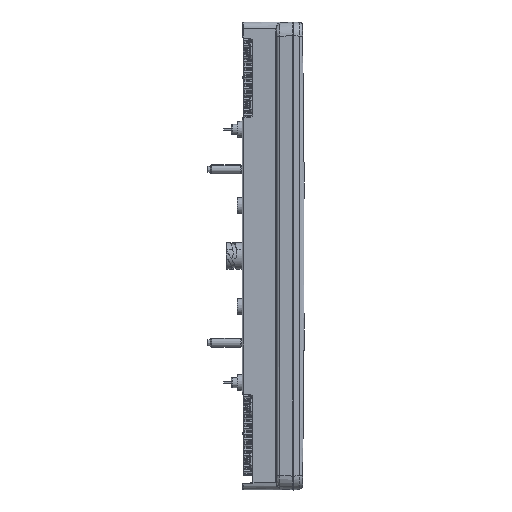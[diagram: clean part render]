
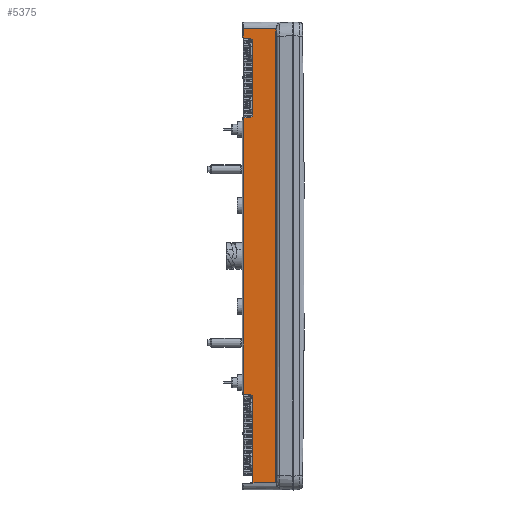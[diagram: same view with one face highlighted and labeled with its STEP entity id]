
A CAD part, top view. The second image highlights one B-rep face of the part: STEP entity #5375.
In plain terms, the highlighted planar face has unit normal (-0.035, 0, 0.999).
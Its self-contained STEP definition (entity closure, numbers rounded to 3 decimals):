
#5244=AXIS2_PLACEMENT_3D('Plane Axis2P3D',#5241,#5242,#5243) ;
#1428=CARTESIAN_POINT('Line Origine',(-41.552,0.,61.996)) ;
#1432=CARTESIAN_POINT('Vertex',(-41.552,-121.126,61.996)) ;
#1434=CARTESIAN_POINT('Vertex',(-41.552,121.126,61.996)) ;
#5241=CARTESIAN_POINT('Axis2P3D Location',(-12.8,0.,63.)) ;
#5246=CARTESIAN_POINT('Line Origine',(-27.9,-199.,62.473)) ;
#5250=CARTESIAN_POINT('Vertex',(-33.517,-199.,62.277)) ;
#5252=CARTESIAN_POINT('Vertex',(-13.572,-199.,62.973)) ;
#5255=CARTESIAN_POINT('Line Origine',(-13.572,0.,62.973)) ;
#5259=CARTESIAN_POINT('Vertex',(-13.572,-196.973,62.973)) ;
#5262=CARTESIAN_POINT('Line Origine',(-13.572,0.,62.973)) ;
#5266=CARTESIAN_POINT('Vertex',(-13.572,196.973,62.973)) ;
#5269=CARTESIAN_POINT('Line Origine',(-13.572,0.,62.973)) ;
#5273=CARTESIAN_POINT('Vertex',(-13.572,199.,62.973)) ;
#5276=CARTESIAN_POINT('Line Origine',(-27.9,199.,62.473)) ;
#5280=CARTESIAN_POINT('Vertex',(-42.017,199.,61.98)) ;
#5283=CARTESIAN_POINT('Line Origine',(-42.017,0.,61.98)) ;
#5287=CARTESIAN_POINT('Vertex',(-42.017,191.831,61.98)) ;
#5291=CARTESIAN_POINT('Control Point',(-42.017,191.831,61.98)) ;
#5292=CARTESIAN_POINT('Control Point',(-42.017,191.46,61.98)) ;
#5293=CARTESIAN_POINT('Control Point',(-41.831,191.085,61.986)) ;
#5294=CARTESIAN_POINT('Control Point',(-41.474,190.867,61.999)) ;
#5295=CARTESIAN_POINT('Control Point',(-41.105,190.835,62.012)) ;
#5296=CARTESIAN_POINT('Vertex',(-41.105,190.835,62.012)) ;
#5300=CARTESIAN_POINT('Control Point',(-41.105,190.835,62.012)) ;
#5301=CARTESIAN_POINT('Control Point',(-35.8,190.37,62.197)) ;
#5302=CARTESIAN_POINT('Vertex',(-35.8,190.37,62.197)) ;
#5306=CARTESIAN_POINT('Control Point',(-33.517,187.88,62.277)) ;
#5307=CARTESIAN_POINT('Control Point',(-33.517,188.622,62.277)) ;
#5308=CARTESIAN_POINT('Control Point',(-33.792,189.364,62.267)) ;
#5309=CARTESIAN_POINT('Control Point',(-34.346,189.968,62.248)) ;
#5310=CARTESIAN_POINT('Control Point',(-35.061,190.306,62.223)) ;
#5311=CARTESIAN_POINT('Control Point',(-35.8,190.37,62.197)) ;
#5312=CARTESIAN_POINT('Vertex',(-33.517,187.88,62.277)) ;
#5315=CARTESIAN_POINT('Line Origine',(-33.517,0.,62.277)) ;
#5319=CARTESIAN_POINT('Vertex',(-33.517,124.12,62.277)) ;
#5323=CARTESIAN_POINT('Control Point',(-35.8,121.63,62.197)) ;
#5324=CARTESIAN_POINT('Control Point',(-35.061,121.694,62.223)) ;
#5325=CARTESIAN_POINT('Control Point',(-34.346,122.032,62.248)) ;
#5326=CARTESIAN_POINT('Control Point',(-33.792,122.635,62.267)) ;
#5327=CARTESIAN_POINT('Control Point',(-33.517,123.378,62.277)) ;
#5328=CARTESIAN_POINT('Control Point',(-33.517,124.12,62.277)) ;
#5329=CARTESIAN_POINT('Vertex',(-35.8,121.63,62.197)) ;
#5333=CARTESIAN_POINT('Control Point',(-35.8,121.63,62.197)) ;
#5334=CARTESIAN_POINT('Control Point',(-41.552,121.126,61.996)) ;
#5337=CARTESIAN_POINT('Control Point',(-35.8,-121.63,62.197)) ;
#5338=CARTESIAN_POINT('Control Point',(-41.552,-121.126,61.996)) ;
#5339=CARTESIAN_POINT('Vertex',(-35.8,-121.63,62.197)) ;
#5343=CARTESIAN_POINT('Control Point',(-33.517,-124.12,62.277)) ;
#5344=CARTESIAN_POINT('Control Point',(-33.517,-123.378,62.277)) ;
#5345=CARTESIAN_POINT('Control Point',(-33.792,-122.635,62.267)) ;
#5346=CARTESIAN_POINT('Control Point',(-34.346,-122.032,62.248)) ;
#5347=CARTESIAN_POINT('Control Point',(-35.061,-121.694,62.223)) ;
#5348=CARTESIAN_POINT('Control Point',(-35.8,-121.63,62.197)) ;
#5349=CARTESIAN_POINT('Vertex',(-33.517,-124.12,62.277)) ;
#5352=CARTESIAN_POINT('Line Origine',(-33.517,0.,62.277)) ;
#1429=DIRECTION('Vector Direction',(0.,1.,0.)) ;
#5242=DIRECTION('Axis2P3D Direction',(0.035,0.,-0.999)) ;
#5243=DIRECTION('Axis2P3D XDirection',(0.,1.,0.)) ;
#5247=DIRECTION('Vector Direction',(0.999,0.,0.035)) ;
#5256=DIRECTION('Vector Direction',(0.,1.,0.)) ;
#5263=DIRECTION('Vector Direction',(0.,1.,0.)) ;
#5270=DIRECTION('Vector Direction',(0.,1.,0.)) ;
#5277=DIRECTION('Vector Direction',(0.999,0.,0.035)) ;
#5284=DIRECTION('Vector Direction',(0.,1.,0.)) ;
#5316=DIRECTION('Vector Direction',(0.,1.,0.)) ;
#5353=DIRECTION('Vector Direction',(0.,1.,0.)) ;
#1430=VECTOR('Line Direction',#1429,1.) ;
#5248=VECTOR('Line Direction',#5247,1.) ;
#5257=VECTOR('Line Direction',#5256,1.) ;
#5264=VECTOR('Line Direction',#5263,1.) ;
#5271=VECTOR('Line Direction',#5270,1.) ;
#5278=VECTOR('Line Direction',#5277,1.) ;
#5285=VECTOR('Line Direction',#5284,1.) ;
#5317=VECTOR('Line Direction',#5316,1.) ;
#5354=VECTOR('Line Direction',#5353,1.) ;
#5358=ORIENTED_EDGE('',*,*,#5254,.T.) ;
#5359=ORIENTED_EDGE('',*,*,#5261,.F.) ;
#5360=ORIENTED_EDGE('',*,*,#5268,.T.) ;
#5361=ORIENTED_EDGE('',*,*,#5275,.T.) ;
#5362=ORIENTED_EDGE('',*,*,#5282,.F.) ;
#5363=ORIENTED_EDGE('',*,*,#5289,.T.) ;
#5364=ORIENTED_EDGE('',*,*,#5298,.T.) ;
#5365=ORIENTED_EDGE('',*,*,#5304,.T.) ;
#5366=ORIENTED_EDGE('',*,*,#5314,.T.) ;
#5367=ORIENTED_EDGE('',*,*,#5321,.T.) ;
#5368=ORIENTED_EDGE('',*,*,#5331,.T.) ;
#5369=ORIENTED_EDGE('',*,*,#5335,.T.) ;
#5370=ORIENTED_EDGE('',*,*,#1436,.F.) ;
#5371=ORIENTED_EDGE('',*,*,#5341,.T.) ;
#5372=ORIENTED_EDGE('',*,*,#5351,.T.) ;
#5373=ORIENTED_EDGE('',*,*,#5356,.F.) ;
#5375=ADVANCED_FACE('PartBody',(#5374),#5245,.F.) ;
#5290=B_SPLINE_CURVE_WITH_KNOTS('',4,(#5291,#5292,#5293,#5294,#5295),.UNSPECIFIED.,.F.,.U.,(5,5),(4.328,7.003),.UNSPECIFIED.) ;
#5299=B_SPLINE_CURVE_WITH_KNOTS('',1,(#5300,#5301),.UNSPECIFIED.,.F.,.U.,(2,2),(-13.094,-7.766),.UNSPECIFIED.) ;
#5305=B_SPLINE_CURVE_WITH_KNOTS('',5,(#5306,#5307,#5308,#5309,#5310,#5311),.UNSPECIFIED.,.F.,.U.,(6,6),(7.687,12.438),.UNSPECIFIED.) ;
#5322=B_SPLINE_CURVE_WITH_KNOTS('',5,(#5323,#5324,#5325,#5326,#5327,#5328),.UNSPECIFIED.,.F.,.U.,(6,6),(7.686,12.437),.UNSPECIFIED.) ;
#5332=B_SPLINE_CURVE_WITH_KNOTS('',1,(#5333,#5334),.UNSPECIFIED.,.F.,.U.,(2,2),(7.766,13.544),.UNSPECIFIED.) ;
#5336=B_SPLINE_CURVE_WITH_KNOTS('',1,(#5337,#5338),.UNSPECIFIED.,.F.,.U.,(2,2),(7.766,13.544),.UNSPECIFIED.) ;
#5342=B_SPLINE_CURVE_WITH_KNOTS('',5,(#5343,#5344,#5345,#5346,#5347,#5348),.UNSPECIFIED.,.F.,.U.,(6,6),(7.687,12.438),.UNSPECIFIED.) ;
#1436=EDGE_CURVE('',#1433,#1435,#1431,.T.) ;
#5254=EDGE_CURVE('',#5251,#5253,#5249,.T.) ;
#5261=EDGE_CURVE('',#5260,#5253,#5258,.F.) ;
#5268=EDGE_CURVE('',#5260,#5267,#5265,.T.) ;
#5275=EDGE_CURVE('',#5267,#5274,#5272,.T.) ;
#5282=EDGE_CURVE('',#5281,#5274,#5279,.T.) ;
#5289=EDGE_CURVE('',#5281,#5288,#5286,.F.) ;
#5298=EDGE_CURVE('',#5288,#5297,#5290,.T.) ;
#5304=EDGE_CURVE('',#5297,#5303,#5299,.T.) ;
#5314=EDGE_CURVE('',#5303,#5313,#5305,.F.) ;
#5321=EDGE_CURVE('',#5313,#5320,#5318,.F.) ;
#5331=EDGE_CURVE('',#5320,#5330,#5322,.F.) ;
#5335=EDGE_CURVE('',#5330,#1435,#5332,.T.) ;
#5341=EDGE_CURVE('',#1433,#5340,#5336,.F.) ;
#5351=EDGE_CURVE('',#5340,#5350,#5342,.F.) ;
#5356=EDGE_CURVE('',#5251,#5350,#5355,.T.) ;
#5357=EDGE_LOOP('',(#5358,#5359,#5360,#5361,#5362,#5363,#5364,#5365,#5366,#5367,#5368,#5369,#5370,#5371,#5372,#5373)) ;
#5374=FACE_OUTER_BOUND('',#5357,.T.) ;
#1431=LINE('Line',#1428,#1430) ;
#5249=LINE('Line',#5246,#5248) ;
#5258=LINE('Line',#5255,#5257) ;
#5265=LINE('Line',#5262,#5264) ;
#5272=LINE('Line',#5269,#5271) ;
#5279=LINE('Line',#5276,#5278) ;
#5286=LINE('Line',#5283,#5285) ;
#5318=LINE('Line',#5315,#5317) ;
#5355=LINE('Line',#5352,#5354) ;
#5245=PLANE('',#5244) ;
#1433=VERTEX_POINT('',#1432) ;
#1435=VERTEX_POINT('',#1434) ;
#5251=VERTEX_POINT('',#5250) ;
#5253=VERTEX_POINT('',#5252) ;
#5260=VERTEX_POINT('',#5259) ;
#5267=VERTEX_POINT('',#5266) ;
#5274=VERTEX_POINT('',#5273) ;
#5281=VERTEX_POINT('',#5280) ;
#5288=VERTEX_POINT('',#5287) ;
#5297=VERTEX_POINT('',#5296) ;
#5303=VERTEX_POINT('',#5302) ;
#5313=VERTEX_POINT('',#5312) ;
#5320=VERTEX_POINT('',#5319) ;
#5330=VERTEX_POINT('',#5329) ;
#5340=VERTEX_POINT('',#5339) ;
#5350=VERTEX_POINT('',#5349) ;
